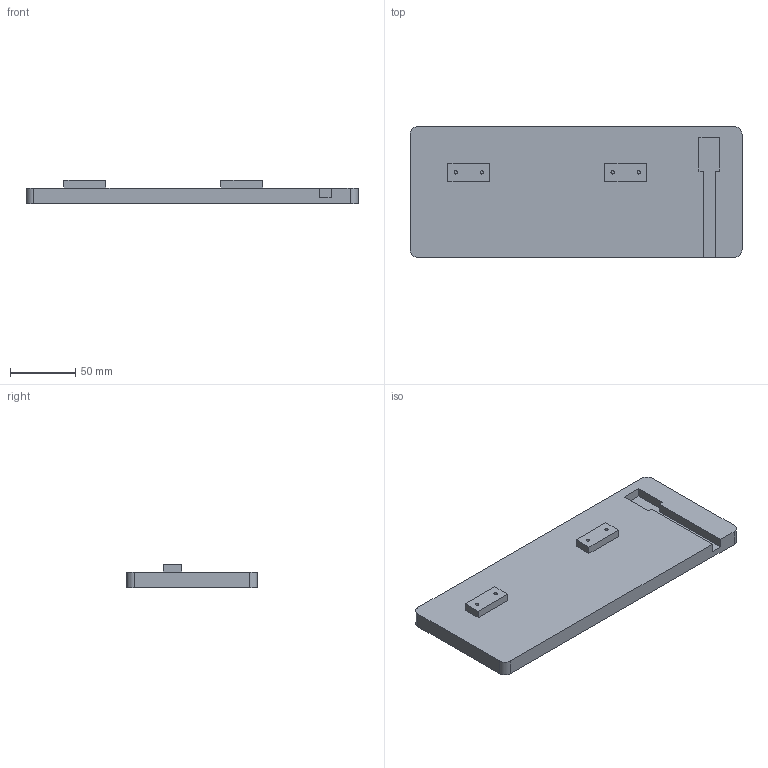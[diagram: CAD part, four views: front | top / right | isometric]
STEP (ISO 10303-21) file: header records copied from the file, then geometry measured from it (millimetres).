
FILE_DESCRIPTION(/* description */ ('STEP AP242 Edition 2','CAx-IF Rec.Pracs.---Representation and Presentation of Product Manufacturing Information (PMI)---4.0---2014-10-13','CAx-IF Rec.Pracs.---3D Tessellated Geometry---0.4---2014-09-14','2;1','CAx-IF Rec.Pracs.---User Defined Attributes---1.5---2016-08-15'),/* implementation_level */ '2;1');
FILE_NAME(/* name */ 'Part Studio 1 - Weighted base',/* time_stamp */ '2026-11-26T14:54:19Z',/* author */ (''),/* organization */ (''),/* preprocessor_version */ 'ST-DEVELOPER v20',/* originating_system */ 'ONSHAPE BY PTC INC, 1.224',/* authorisation */ ' ');
FILE_SCHEMA (('AP242_MANAGED_MODEL_BASED_3D_ENGINEERING_MIM_LF { 1 0 10303 442 3 1 4 }'));
Length unit declared in the file: metre
Products named in the file (1): Weighted base
Bounding box: 254 x 100 x 18 mm (x, y, z)
Volume: 259693.4 mm3; surface area: 64473 mm2
Topology: 1 solids, 1 shells, 51 faces, 120 edges, 80 vertices
Faces by surface type: plane 43, cylinder 8
Full cylindrical faces by diameter (mm): 2.5 x4
Entity records: 1452 total; most frequent: CARTESIAN_POINT 248, DIRECTION 236, ORIENTED_EDGE 232, EDGE_CURVE 116, LINE 100, VECTOR 100, VERTEX_POINT 80, AXIS2_PLACEMENT_3D 68
